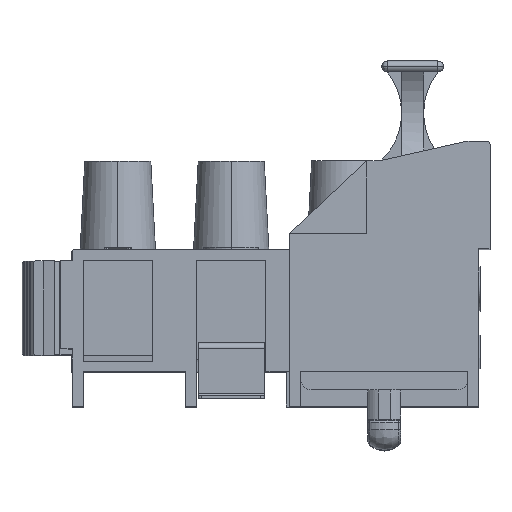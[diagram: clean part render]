
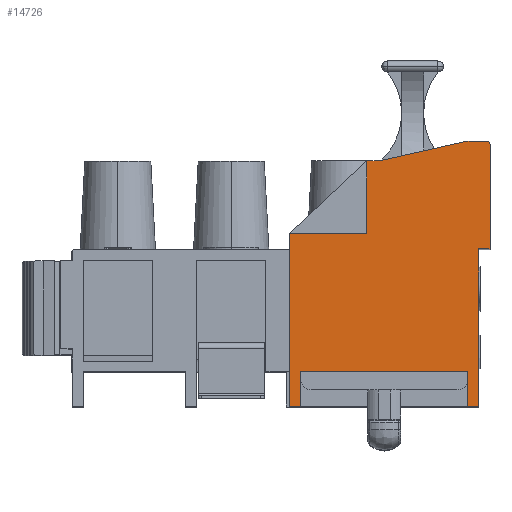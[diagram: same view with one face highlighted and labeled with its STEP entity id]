
A CAD part, top view. The second image highlights one B-rep face of the part: STEP entity #14726.
In plain terms, the highlighted planar face has unit normal (0, 0, 1).
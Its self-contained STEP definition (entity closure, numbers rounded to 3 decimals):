
#9461=CARTESIAN_POINT(' ',(32.8,5.3,14.5));
#9466=DIRECTION(' ',(0.,-1.,0.));
#9471=VECTOR(' ',#9466,1.);
#9476=LINE('',#9461,#9471);
#9481=CARTESIAN_POINT(' ',(32.8,5.3,14.5));
#9482=VERTEX_POINT(' ',#9481);
#9486=CARTESIAN_POINT(' ',(32.8,-9.,14.5));
#9487=VERTEX_POINT(' ',#9486);
#9491=EDGE_CURVE(' ',#9482,#9487,#9476,.T.);
#12101=CARTESIAN_POINT(' ',(32.8,5.3,14.5));
#12106=DIRECTION(' ',(1.,0.,0.));
#12111=VECTOR(' ',#12106,1.);
#12116=LINE('',#12101,#12111);
#12121=CARTESIAN_POINT(' ',(33.8,5.3,14.5));
#12122=VERTEX_POINT(' ',#12121);
#12126=EDGE_CURVE(' ',#9482,#12122,#12116,.T.);
#13306=CARTESIAN_POINT(' ',(16.6,-9.,14.5));
#13307=VERTEX_POINT(' ',#13306);
#13321=CARTESIAN_POINT(' ',(16.6,-9.,14.5));
#13326=DIRECTION(' ',(-1.,0.,0.));
#13331=VECTOR(' ',#13326,1.);
#13336=LINE('',#13321,#13331);
#13341=CARTESIAN_POINT(' ',(15.6,-9.,14.5));
#13342=VERTEX_POINT(' ',#13341);
#13346=EDGE_CURVE(' ',#13307,#13342,#13336,.T.);
#13866=CARTESIAN_POINT(' ',(32.8,-9.,14.5));
#13871=DIRECTION(' ',(-1.,0.,0.));
#13876=VECTOR(' ',#13871,1.);
#13881=LINE('',#13866,#13876);
#13886=CARTESIAN_POINT(' ',(31.8,-9.,14.5));
#13887=VERTEX_POINT(' ',#13886);
#13891=EDGE_CURVE(' ',#9487,#13887,#13881,.T.);
#14291=CARTESIAN_POINT(' ',(33.8,-9.,14.5));
#14296=DIRECTION(' ',(0.,0.,1.));
#14301=DIRECTION(' ',(0.,1.,0.));
#14306=AXIS2_PLACEMENT_3D(' ',#14291,#14296,#14301);
#14311=PLANE(' ',#14306);
#14316=ORIENTED_EDGE(' ',*,*,#12126,.T.);
#14321=CARTESIAN_POINT(' ',(33.8,5.3,14.5));
#14326=DIRECTION(' ',(0.,1.,0.));
#14331=VECTOR(' ',#14326,1.);
#14336=LINE('',#14321,#14331);
#14341=CARTESIAN_POINT(' ',(33.8,14.8,14.5));
#14342=VERTEX_POINT(' ',#14341);
#14346=EDGE_CURVE(' ',#12122,#14342,#14336,.T.);
#14351=ORIENTED_EDGE(' ',*,*,#14346,.T.);
#14356=CARTESIAN_POINT(' ',(33.5,14.8,14.5));
#14361=DIRECTION(' ',(0.,0.,1.));
#14366=DIRECTION(' ',(1.,0.,0.));
#14371=AXIS2_PLACEMENT_3D(' ',#14356,#14361,#14366);
#14376=CIRCLE('',#14371,0.3);
#14381=CARTESIAN_POINT(' ',(33.5,15.1,14.5));
#14382=VERTEX_POINT(' ',#14381);
#14386=EDGE_CURVE(' ',#14342,#14382,#14376,.T.);
#14391=ORIENTED_EDGE(' ',*,*,#14386,.T.);
#14396=CARTESIAN_POINT(' ',(33.5,15.1,14.5));
#14401=DIRECTION(' ',(-1.,0.,0.));
#14406=VECTOR(' ',#14401,1.);
#14411=LINE('',#14396,#14406);
#14416=CARTESIAN_POINT(' ',(31.8,15.1,14.5));
#14417=VERTEX_POINT(' ',#14416);
#14421=EDGE_CURVE(' ',#14382,#14417,#14411,.T.);
#14426=ORIENTED_EDGE(' ',*,*,#14421,.T.);
#14431=CARTESIAN_POINT(' ',(31.8,15.1,14.5));
#14436=DIRECTION(' ',(-0.976,-0.218,0.));
#14441=VECTOR(' ',#14436,1.);
#14446=LINE('',#14431,#14441);
#14451=CARTESIAN_POINT(' ',(23.75,13.3,14.5));
#14452=VERTEX_POINT(' ',#14451);
#14456=EDGE_CURVE(' ',#14417,#14452,#14446,.T.);
#14461=ORIENTED_EDGE(' ',*,*,#14456,.T.);
#14466=CARTESIAN_POINT(' ',(23.75,13.3,14.5));
#14471=DIRECTION(' ',(-1.,0.,0.));
#14476=VECTOR(' ',#14471,1.);
#14481=LINE('',#14466,#14476);
#14486=CARTESIAN_POINT(' ',(22.6,13.3,14.5));
#14487=VERTEX_POINT(' ',#14486);
#14491=EDGE_CURVE(' ',#14452,#14487,#14481,.T.);
#14496=ORIENTED_EDGE(' ',*,*,#14491,.T.);
#14501=CARTESIAN_POINT(' ',(22.6,13.3,14.5));
#14506=DIRECTION(' ',(0.,-1.,0.));
#14511=VECTOR(' ',#14506,1.);
#14516=LINE('',#14501,#14511);
#14521=CARTESIAN_POINT(' ',(22.6,6.7,14.5));
#14522=VERTEX_POINT(' ',#14521);
#14526=EDGE_CURVE(' ',#14487,#14522,#14516,.T.);
#14531=ORIENTED_EDGE(' ',*,*,#14526,.T.);
#14536=CARTESIAN_POINT(' ',(15.6,6.7,14.5));
#14541=DIRECTION(' ',(1.,0.,0.));
#14546=VECTOR(' ',#14541,1.);
#14551=LINE('',#14536,#14546);
#14556=CARTESIAN_POINT(' ',(15.6,6.7,14.5));
#14557=VERTEX_POINT(' ',#14556);
#14561=EDGE_CURVE(' ',#14557,#14522,#14551,.T.);
#14566=ORIENTED_EDGE(' ',*,*,#14561,.F.);
#14571=CARTESIAN_POINT(' ',(15.6,6.7,14.5));
#14576=DIRECTION(' ',(0.,-1.,0.));
#14581=VECTOR(' ',#14576,1.);
#14586=LINE('',#14571,#14581);
#14591=EDGE_CURVE(' ',#14557,#13342,#14586,.T.);
#14596=ORIENTED_EDGE(' ',*,*,#14591,.T.);
#14601=ORIENTED_EDGE(' ',*,*,#13346,.F.);
#14606=CARTESIAN_POINT(' ',(16.6,-9.,14.5));
#14611=DIRECTION(' ',(0.,1.,0.));
#14616=VECTOR(' ',#14611,1.);
#14621=LINE('',#14606,#14616);
#14626=CARTESIAN_POINT(' ',(16.6,-5.8,14.5));
#14627=VERTEX_POINT(' ',#14626);
#14631=EDGE_CURVE(' ',#13307,#14627,#14621,.T.);
#14636=ORIENTED_EDGE(' ',*,*,#14631,.T.);
#14641=CARTESIAN_POINT(' ',(16.6,-5.8,14.5));
#14646=DIRECTION(' ',(1.,0.,0.));
#14651=VECTOR(' ',#14646,1.);
#14656=LINE('',#14641,#14651);
#14661=CARTESIAN_POINT(' ',(31.8,-5.8,14.5));
#14662=VERTEX_POINT(' ',#14661);
#14666=EDGE_CURVE(' ',#14627,#14662,#14656,.T.);
#14671=ORIENTED_EDGE(' ',*,*,#14666,.T.);
#14676=CARTESIAN_POINT(' ',(31.8,-9.,14.5));
#14681=DIRECTION(' ',(0.,1.,0.));
#14686=VECTOR(' ',#14681,1.);
#14691=LINE('',#14676,#14686);
#14696=EDGE_CURVE(' ',#13887,#14662,#14691,.T.);
#14701=ORIENTED_EDGE(' ',*,*,#14696,.F.);
#14706=ORIENTED_EDGE(' ',*,*,#13891,.F.);
#14711=ORIENTED_EDGE(' ',*,*,#9491,.F.);
#14716=EDGE_LOOP(' ',(#14316,#14351,#14391,#14426,#14461,#14496,#14531,#14566,#14596,#14601,#14636,#14671,#14701,#14706,#14711));
#14721=FACE_OUTER_BOUND(' ',#14716,.T.);
#14726=ADVANCED_FACE('',(#14721),#14311,.T.);
